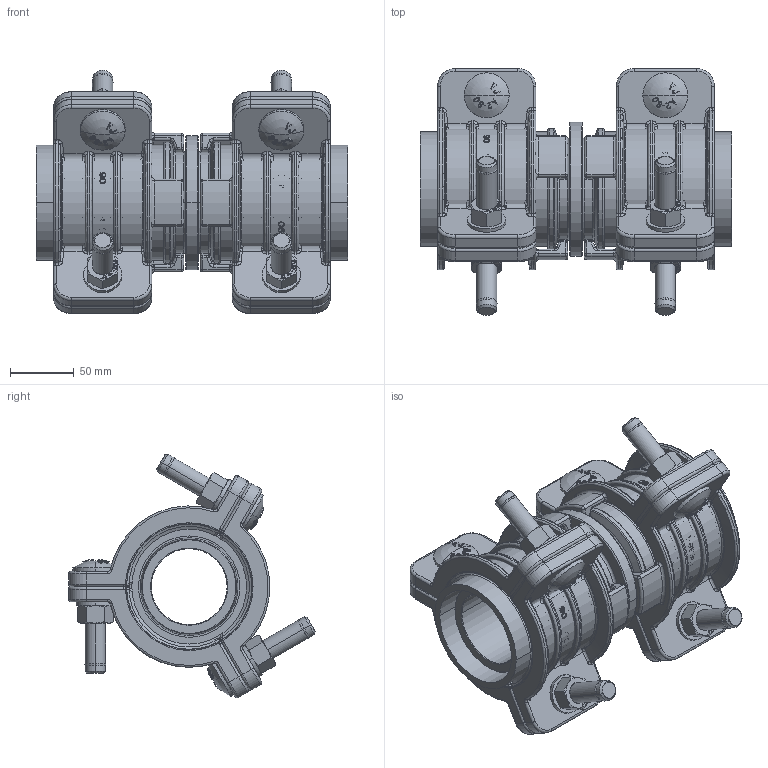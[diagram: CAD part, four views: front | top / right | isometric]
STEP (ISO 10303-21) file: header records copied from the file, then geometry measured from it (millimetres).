
FILE_DESCRIPTION((''),'2;1');
FILE_NAME('13642_2_ASM','2022-05-26T15:12:18',('mfairey'),('Glynwed Pipe Systems'),'CREO PARAMETRIC BY PTC INC, 2020454','CREO PARAMETRIC BY PTC INC, 2020454','');
FILE_SCHEMA(('CONFIG_CONTROL_DESIGN'));
Length unit declared in the file: millimetre
Products named in the file (8): 13637_MACHINED_2; 13638_1; 12568_7; 10467_4; 10493_6; 7896_10; PE_90_SDR17; 13642_2_ASM
Assembly tree (33 placements, depth 2):
  13642_2_ASM
    13637_MACHINED_2
    13638_1  x6
    12568_7  x6
    10467_4  x6
    10493_6  x6
    7896_10  x6
    PE_90_SDR17  x2
Bounding box: 244 x 193.46 x 190.87 mm (x, y, z)
Volume: 1684956.6 mm3; surface area: 639386.3 mm2
Topology: 33 solids, 57 shells, 6450 faces, 17184 edges, 11002 vertices
Faces by surface type: plane 4402, cylinder 766, torus 490, bspline 384, cone 246, sphere 162
Entity records: 41520 total; most frequent: CARTESIAN_POINT 12157, ORIENTED_EDGE 6304, DIRECTION 5927, EDGE_CURVE 3160, AXIS2_PLACEMENT_3D 2323, VERTEX_POINT 1989, VECTOR 1281, LINE 1281
